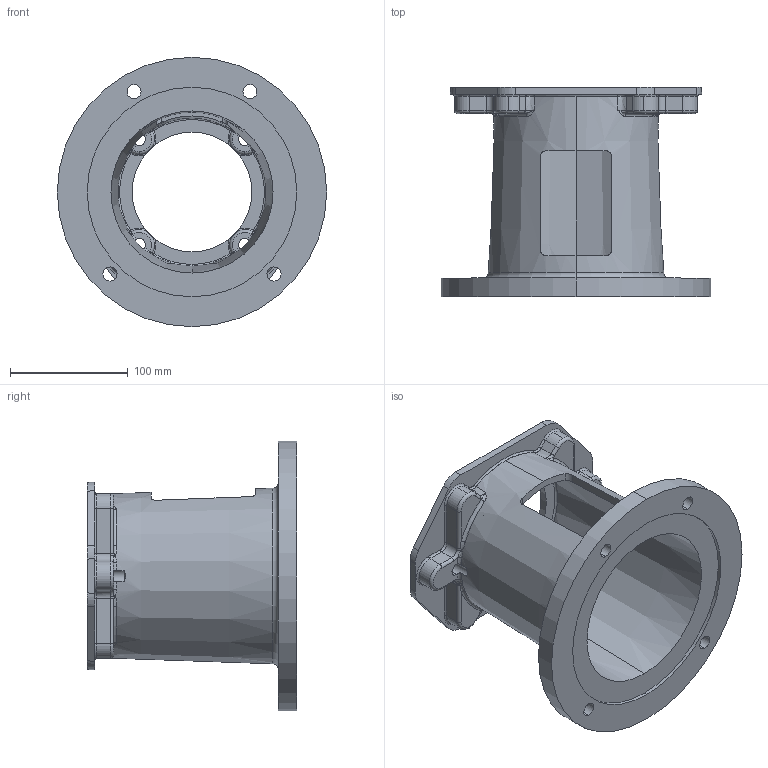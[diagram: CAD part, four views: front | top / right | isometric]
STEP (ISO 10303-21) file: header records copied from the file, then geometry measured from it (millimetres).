
FILE_DESCRIPTION (( 'STEP AP203' ), '1' );
FILE_NAME ('E700702B.STEP', '2014-11-04T13:22:25', ( '' ), ( '' ), 'SwSTEP 2.0', 'SolidWorks 2014', '' );
FILE_SCHEMA (( 'CONFIG_CONTROL_DESIGN' ));
Length unit declared in the file: inch
Products named in the file (1): E700702B
Bounding box: 228.6 x 177.8 x 228.6 mm (x, y, z)
Volume: 975966.7 mm3; surface area: 244403.2 mm2
Topology: 1 solids, 1 shells, 304 faces, 800 edges, 473 vertices
Faces by surface type: torus 91, cylinder 74, bspline 60, plane 43, cone 20, sphere 16
Entity records: 12011 total; most frequent: CARTESIAN_POINT 4850, ORIENTED_EDGE 1560, DIRECTION 1490, EDGE_CURVE 780, AXIS2_PLACEMENT_3D 673, VERTEX_POINT 473, CIRCLE 428, EDGE_LOOP 323
